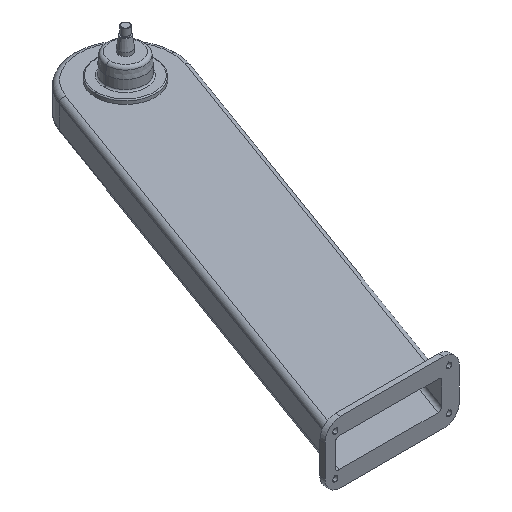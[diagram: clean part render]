
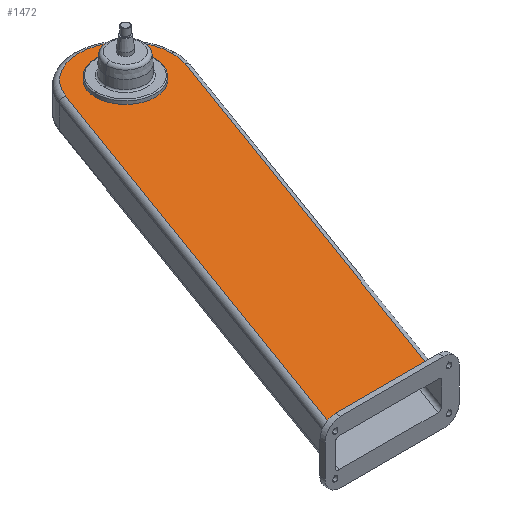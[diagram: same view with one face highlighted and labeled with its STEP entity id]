
A CAD part, isometric view. The second image highlights one B-rep face of the part: STEP entity #1472.
In plain terms, the highlighted planar face has unit normal (0, 0, 1).
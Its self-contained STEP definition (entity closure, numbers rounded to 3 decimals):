
#59 = EDGE_LOOP ( 'NONE', ( #1803, #2606 ) ) ;
#167 = AXIS2_PLACEMENT_3D ( 'NONE', #181, #2222, #995 ) ;
#181 = CARTESIAN_POINT ( 'NONE',  ( 0., 0., 31.25 ) ) ;
#184 = VECTOR ( 'NONE', #1666, 1000. ) ;
#235 = CARTESIAN_POINT ( 'NONE',  ( 0., 0., 31.25 ) ) ;
#250 = CARTESIAN_POINT ( 'NONE',  ( -84.572, 30.782, 31.25 ) ) ;
#299 = VERTEX_POINT ( 'NONE', #918 ) ;
#319 = VECTOR ( 'NONE', #1130, 1000. ) ;
#380 = CARTESIAN_POINT ( 'NONE',  ( 58., 0., 31.25 ) ) ;
#384 = EDGE_CURVE ( 'NONE', #2216, #471, #1832, .T. ) ;
#436 = DIRECTION ( 'NONE',  ( 1., 0., 0. ) ) ;
#448 = DIRECTION ( 'NONE',  ( 0., 0., 1. ) ) ;
#454 = CARTESIAN_POINT ( 'NONE',  ( -58., 0., 31.25 ) ) ;
#456 = CARTESIAN_POINT ( 'NONE',  ( 0., -780., 31.25 ) ) ;
#461 = DIRECTION ( 'NONE',  ( 0.342, 0.94, 0. ) ) ;
#462 = ORIENTED_EDGE ( 'NONE', *, *, #2153, .T. ) ;
#471 = VERTEX_POINT ( 'NONE', #2016 ) ;
#481 = FACE_BOUND ( 'NONE', #59, .T. ) ;
#631 = EDGE_CURVE ( 'NONE', #299, #2216, #2624, .T. ) ;
#714 = CARTESIAN_POINT ( 'NONE',  ( -388.197, -803.42, 31.25 ) ) ;
#730 = EDGE_CURVE ( 'NONE', #776, #1458, #2438, .T. ) ;
#767 = AXIS2_PLACEMENT_3D ( 'NONE', #1653, #448, #1857 ) ;
#776 = VERTEX_POINT ( 'NONE', #454 ) ;
#778 = CIRCLE ( 'NONE', #1513, 90. ) ;
#785 = PLANE ( 'NONE',  #167 ) ;
#791 = DIRECTION ( 'NONE',  ( 0., 0., 1. ) ) ;
#798 = ORIENTED_EDGE ( 'NONE', *, *, #962, .T. ) ;
#906 = ORIENTED_EDGE ( 'NONE', *, *, #2203, .T. ) ;
#914 = VERTEX_POINT ( 'NONE', #2147 ) ;
#918 = CARTESIAN_POINT ( 'NONE',  ( -188.121, -780., 31.25 ) ) ;
#962 = EDGE_CURVE ( 'NONE', #1239, #914, #1036, .T. ) ;
#995 = DIRECTION ( 'NONE',  ( 1., 0., 0. ) ) ;
#1036 = LINE ( 'NONE', #714, #319 ) ;
#1089 = EDGE_CURVE ( 'NONE', #1458, #776, #1670, .T. ) ;
#1130 = DIRECTION ( 'NONE',  ( -0.342, -0.94, 0. ) ) ;
#1182 = DIRECTION ( 'NONE',  ( 0., 0., 1. ) ) ;
#1229 = ORIENTED_EDGE ( 'NONE', *, *, #631, .T. ) ;
#1239 = VERTEX_POINT ( 'NONE', #250 ) ;
#1458 = VERTEX_POINT ( 'NONE', #380 ) ;
#1472 = ADVANCED_FACE ( 'NONE', ( #2517, #481 ), #785, .T. ) ;
#1513 = AXIS2_PLACEMENT_3D ( 'NONE', #235, #1650, #436 ) ;
#1650 = DIRECTION ( 'NONE',  ( 0., 0., 1. ) ) ;
#1653 = CARTESIAN_POINT ( 'NONE',  ( 0., 0., 31.25 ) ) ;
#1666 = DIRECTION ( 'NONE',  ( 1., 0., 0. ) ) ;
#1670 = CIRCLE ( 'NONE', #2626, 58. ) ;
#1673 = CARTESIAN_POINT ( 'NONE',  ( 84.572, -30.782, 31.25 ) ) ;
#1801 = LINE ( 'NONE', #456, #184 ) ;
#1803 = ORIENTED_EDGE ( 'NONE', *, *, #1089, .F. ) ;
#1832 = CIRCLE ( 'NONE', #2641, 90. ) ;
#1857 = DIRECTION ( 'NONE',  ( 1., 0., 0. ) ) ;
#1984 = ORIENTED_EDGE ( 'NONE', *, *, #384, .T. ) ;
#2014 = CARTESIAN_POINT ( 'NONE',  ( 0., 0., 31.25 ) ) ;
#2016 = CARTESIAN_POINT ( 'NONE',  ( 90., 0., 31.25 ) ) ;
#2083 = CARTESIAN_POINT ( 'NONE',  ( 84.572, -30.782, 31.25 ) ) ;
#2097 = VECTOR ( 'NONE', #461, 1000. ) ;
#2147 = CARTESIAN_POINT ( 'NONE',  ( -379.673, -780., 31.25 ) ) ;
#2153 = EDGE_CURVE ( 'NONE', #471, #1239, #778, .T. ) ;
#2203 = EDGE_CURVE ( 'NONE', #914, #299, #1801, .T. ) ;
#2216 = VERTEX_POINT ( 'NONE', #2083 ) ;
#2222 = DIRECTION ( 'NONE',  ( 0., 0., 1. ) ) ;
#2236 = DIRECTION ( 'NONE',  ( 1., 0., 0. ) ) ;
#2409 = EDGE_LOOP ( 'NONE', ( #798, #906, #1229, #1984, #462 ) ) ;
#2412 = CARTESIAN_POINT ( 'NONE',  ( 0., 0., 31.25 ) ) ;
#2438 = CIRCLE ( 'NONE', #767, 58. ) ;
#2517 = FACE_OUTER_BOUND ( 'NONE', #2409, .T. ) ;
#2606 = ORIENTED_EDGE ( 'NONE', *, *, #730, .F. ) ;
#2610 = DIRECTION ( 'NONE',  ( 1., 0., 0. ) ) ;
#2624 = LINE ( 'NONE', #1673, #2097 ) ;
#2626 = AXIS2_PLACEMENT_3D ( 'NONE', #2014, #791, #2236 ) ;
#2641 = AXIS2_PLACEMENT_3D ( 'NONE', #2412, #1182, #2610 ) ;
